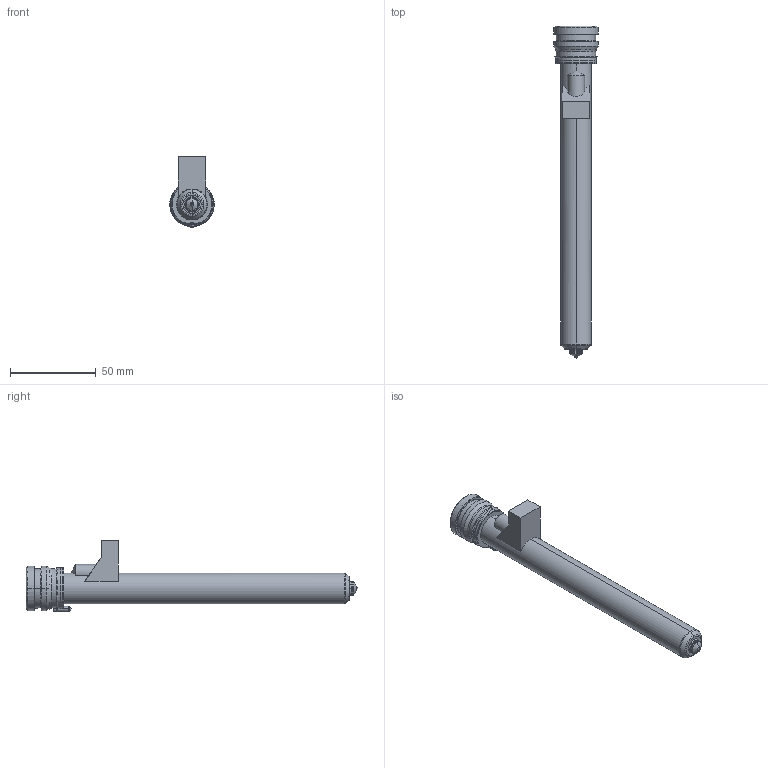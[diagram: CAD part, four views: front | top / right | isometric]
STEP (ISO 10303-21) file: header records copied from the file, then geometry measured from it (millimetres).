
FILE_DESCRIPTION((''),'2;1');
FILE_NAME('MPN-08-24-TS8-176-M','2026-02-05T13:25:16',('UPTIO'),('Thermoplay S.p.A.'),'CREO PARAMETRIC BY PTC INC, 2023494','CREO PARAMETRIC BY PTC INC, 2023494','');
FILE_SCHEMA(('CONFIG_CONTROL_DESIGN','SHAPE_APPEARANCE_LAYERS_GROUPS'));
Length unit declared in the file: millimetre
Products named in the file (1): MPN-08-24-TS8-176-M
Bounding box: 26 x 194 x 41.5 mm (x, y, z)
Volume: 36448.6 mm3; surface area: 48749.3 mm2
Topology: 2 solids, 5 shells, 532 faces, 1371 edges, 843 vertices
Faces by surface type: cylinder 172, plane 146, bspline 77, torus 62, cone 58, sphere 11, extrusion 6
Entity records: 27992 total; most frequent: CARTESIAN_POINT 12353, ORIENTED_EDGE 2720, DIRECTION 2456, EDGE_CURVE 1360, AXIS2_PLACEMENT_3D 960, VERTEX_POINT 843, EDGE_LOOP 561, VECTOR 536
